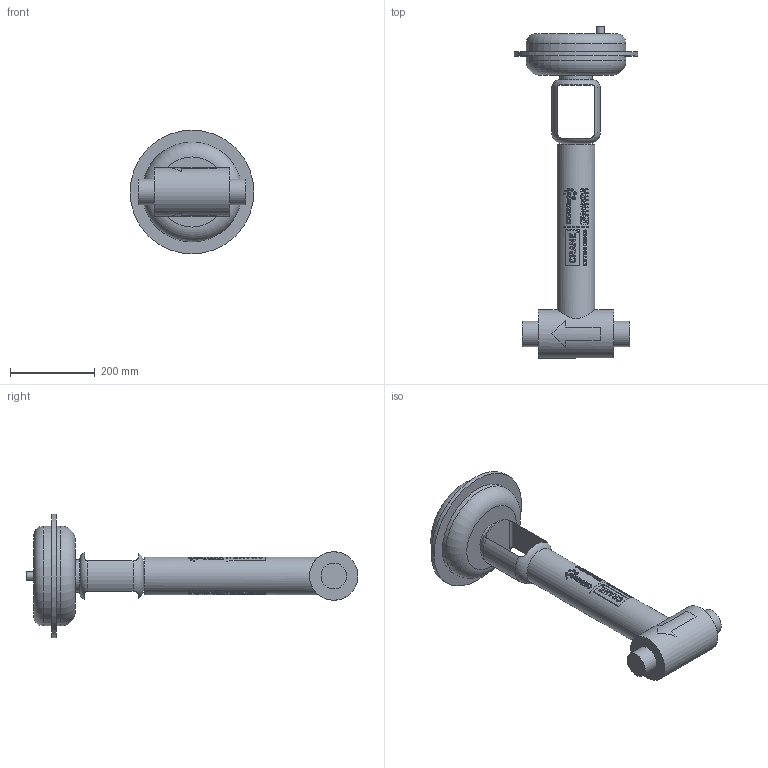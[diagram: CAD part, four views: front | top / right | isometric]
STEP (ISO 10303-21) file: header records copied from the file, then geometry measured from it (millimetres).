
FILE_DESCRIPTION (( 'STEP AP203' ), '1' );
FILE_NAME ('2in T-Pattern Pneumatic TF Valve.step', '2025-12-17T20:08:52', ( '' ), ( '' ), 'SwSTEP 2.0', 'SolidWorks 2023', '' );
FILE_SCHEMA (( 'CONFIG_CONTROL_DESIGN' ));
Products named in the file (1): 2in T-Pattern Pneumatic TF Valve
Bounding box: 292.1 x 783.59 x 292.1 mm (x, y, z)
Volume: 9156975.7 mm3; surface area: 477704.1 mm2
Topology: 1 solids, 1 shells, 1176 faces, 3020 edges, 2014 vertices
Faces by surface type: plane 750, cylinder 316, bspline 106, torus 4
Full cylindrical faces by diameter (mm): 1.195 x2, 1.309 x2, 1.422 x2, 1.631 x2, 1.842 x2, 2.373 x2, 2.456 x2, 2.727 x2, 2.906 x2, 3.046 x2, 3.207 x2, 3.658 x2, 4.941 x2, 6.104 x2, 7.386 x2, 8.599 x2, 19.05 x1, 60.325 x2, 64.176 x1, 76.779 x1, 88.9 x1, 114.3 x1, 235.774 x2, 292.1 x1
Entity records: 50385 total; most frequent: CARTESIAN_POINT 24476, ORIENTED_EDGE 5888, DIRECTION 4424, EDGE_CURVE 2944, VERTEX_POINT 2004, LINE 1548, VECTOR 1548, AXIS2_PLACEMENT_3D 1438
